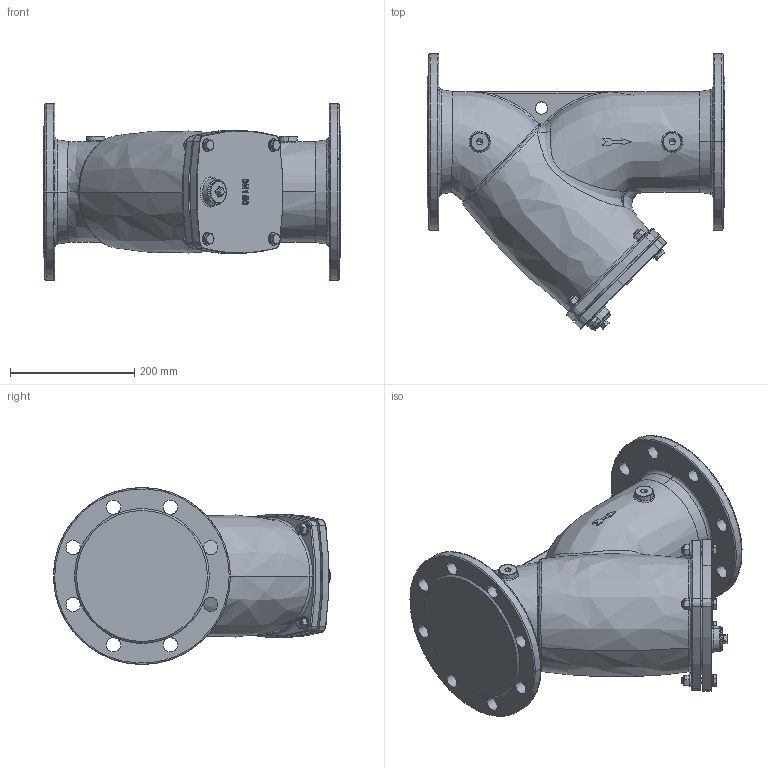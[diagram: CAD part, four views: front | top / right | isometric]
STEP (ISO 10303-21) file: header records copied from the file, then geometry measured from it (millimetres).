
FILE_DESCRIPTION (( 'STEP AP203' ), '1' );
FILE_NAME ('11.000C DN150.STEP', '2024-07-30T07:15:43', ( '' ), ( '' ), 'SwSTEP 2.0', 'SolidWorks 2023', '' );
FILE_SCHEMA (( 'CONFIG_CONTROL_DESIGN' ));
Length unit declared in the file: millimetre
Products named in the file (1): 11.000C DN150
Bounding box: 480 x 446.35 x 285 mm (x, y, z)
Volume: 17384559.7 mm3; surface area: 846681.3 mm2
Topology: 1 solids, 3 shells, 557 faces, 1365 edges, 844 vertices
Faces by surface type: plane 180, bspline 150, cylinder 136, cone 91
Entity records: 80970 total; most frequent: CARTESIAN_POINT 68850, ORIENTED_EDGE 2686, DIRECTION 2245, EDGE_CURVE 1343, AXIS2_PLACEMENT_3D 918, VERTEX_POINT 842, EDGE_LOOP 651, FACE_OUTER_BOUND 557
